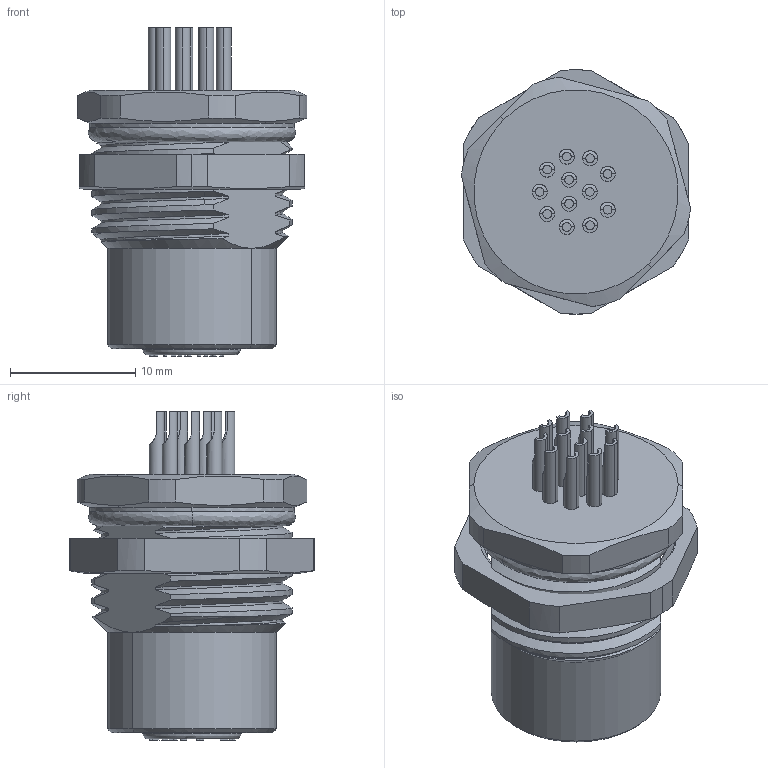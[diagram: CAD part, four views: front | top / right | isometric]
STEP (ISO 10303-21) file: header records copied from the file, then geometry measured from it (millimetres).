
FILE_DESCRIPTION (( 'STEP AP203' ), '1' );
FILE_NAME ('64SC61H.STEP', '2023-10-25T06:04:15', ( 'ADMIN' ), ( '' ), 'SwSTEP 2.0', 'SolidWorks 2016', '' );
FILE_SCHEMA (( 'CONFIG_CONTROL_DESIGN' ));
Length unit declared in the file: millimetre
Products named in the file (1): 64SC61H
Bounding box: 18.31 x 19.5 x 26.2 mm (x, y, z)
Volume: 3340.2 mm3; surface area: 3682.9 mm2
Topology: 2 solids, 15 shells, 621 faces, 1590 edges, 1053 vertices
Faces by surface type: plane 231, cylinder 188, bspline 159, cone 43
Entity records: 42105 total; most frequent: CARTESIAN_POINT 28206, ORIENTED_EDGE 3168, DIRECTION 2314, EDGE_CURVE 1584, VERTEX_POINT 1053, AXIS2_PLACEMENT_3D 816, EDGE_LOOP 685, VECTOR 682
